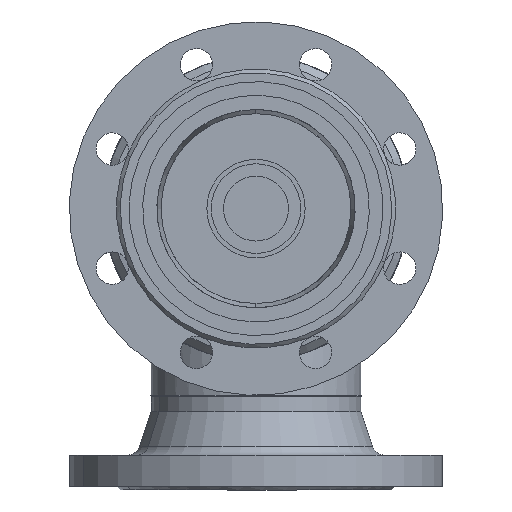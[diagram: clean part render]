
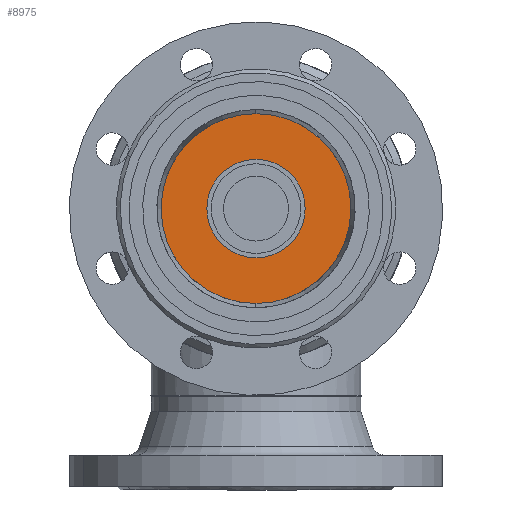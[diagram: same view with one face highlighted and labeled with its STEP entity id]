
A CAD part, front view. The second image highlights one B-rep face of the part: STEP entity #8975.
In plain terms, the highlighted planar face has unit normal (0, -1, 0) as drawn and (0, 0, 1) by its records, which use the part's own axes.
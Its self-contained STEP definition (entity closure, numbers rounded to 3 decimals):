
#481 = CARTESIAN_POINT ( 'NONE',  ( 39.5, 0., 16. ) ) ;
#1289 = EDGE_LOOP ( 'NONE', ( #5425, #5363 ) ) ;
#1528 = ORIENTED_EDGE ( 'NONE', *, *, #2803, .T. ) ;
#2037 = EDGE_CURVE ( 'NONE', #2369, #2584, #8235, .T. ) ;
#2369 = VERTEX_POINT ( 'NONE', #8532 ) ;
#2407 = ORIENTED_EDGE ( 'NONE', *, *, #2037, .T. ) ;
#2584 = VERTEX_POINT ( 'NONE', #8724 ) ;
#2803 = EDGE_CURVE ( 'NONE', #2584, #2369, #8873, .T. ) ;
#3182 = CIRCLE ( 'NONE', #3183, 39.5 ) ;
#3183 = AXIS2_PLACEMENT_3D ( 'NONE', #3184, #3185, #3186 ) ;
#3184 = CARTESIAN_POINT ( 'NONE',  ( 0., 0., 16. ) ) ;
#3185 = DIRECTION ( 'NONE',  ( 0., 0., 1. ) ) ;
#3186 = DIRECTION ( 'NONE',  ( 1., 0., 0. ) ) ;
#4233 = FACE_OUTER_BOUND ( 'NONE', #8738, .T. ) ;
#4234 = FACE_BOUND ( 'NONE', #1289, .T. ) ;
#4235 = PLANE ( 'NONE',  #4236 ) ;
#4236 = AXIS2_PLACEMENT_3D ( 'NONE', #4237, #4238, #4239 ) ;
#4237 = CARTESIAN_POINT ( 'NONE',  ( 0., 0., 16. ) ) ;
#4238 = DIRECTION ( 'NONE',  ( 0., 0., 1. ) ) ;
#4239 = DIRECTION ( 'NONE',  ( 1., 0., 0. ) ) ;
#5363 = ORIENTED_EDGE ( 'NONE', *, *, #5991, .F. ) ;
#5425 = ORIENTED_EDGE ( 'NONE', *, *, #7960, .F. ) ;
#5967 = VERTEX_POINT ( 'NONE', #8935 ) ;
#5991 = EDGE_CURVE ( 'NONE', #6145, #5967, #9153, .T. ) ;
#6145 = VERTEX_POINT ( 'NONE', #481 ) ;
#7960 = EDGE_CURVE ( 'NONE', #5967, #6145, #3182, .T. ) ;
#8235 = CIRCLE ( 'NONE', #8236, 85. ) ;
#8236 = AXIS2_PLACEMENT_3D ( 'NONE', #8237, #8238, #8239 ) ;
#8237 = CARTESIAN_POINT ( 'NONE',  ( 0., 0., 16. ) ) ;
#8238 = DIRECTION ( 'NONE',  ( 0., 0., 1. ) ) ;
#8239 = DIRECTION ( 'NONE',  ( 1., 0., 0. ) ) ;
#8532 = CARTESIAN_POINT ( 'NONE',  ( -85., 0., 16. ) ) ;
#8724 = CARTESIAN_POINT ( 'NONE',  ( 85., 0., 16. ) ) ;
#8738 = EDGE_LOOP ( 'NONE', ( #2407, #1528 ) ) ;
#8873 = CIRCLE ( 'NONE', #8874, 85. ) ;
#8874 = AXIS2_PLACEMENT_3D ( 'NONE', #8875, #8876, #8877 ) ;
#8875 = CARTESIAN_POINT ( 'NONE',  ( 0., 0., 16. ) ) ;
#8876 = DIRECTION ( 'NONE',  ( 0., 0., 1. ) ) ;
#8877 = DIRECTION ( 'NONE',  ( 1., 0., 0. ) ) ;
#8935 = CARTESIAN_POINT ( 'NONE',  ( -39.5, 0., 16. ) ) ;
#8975 = ADVANCED_FACE ( 'NONE', ( #4233, #4234 ), #4235, .T. ) ;
#9153 = CIRCLE ( 'NONE', #9154, 39.5 ) ;
#9154 = AXIS2_PLACEMENT_3D ( 'NONE', #9155, #9156, #9157 ) ;
#9155 = CARTESIAN_POINT ( 'NONE',  ( 0., 0., 16. ) ) ;
#9156 = DIRECTION ( 'NONE',  ( 0., 0., 1. ) ) ;
#9157 = DIRECTION ( 'NONE',  ( 1., 0., 0. ) ) ;
